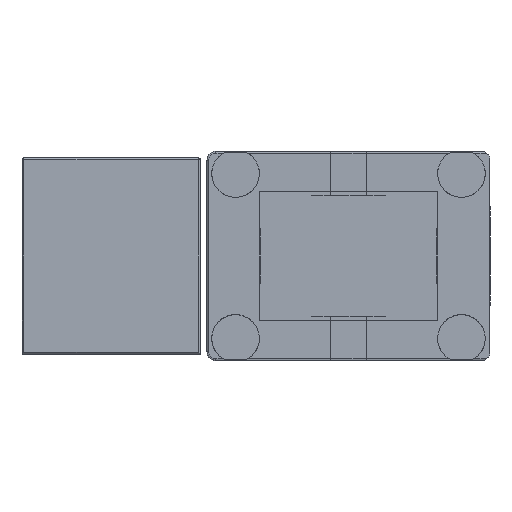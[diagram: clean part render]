
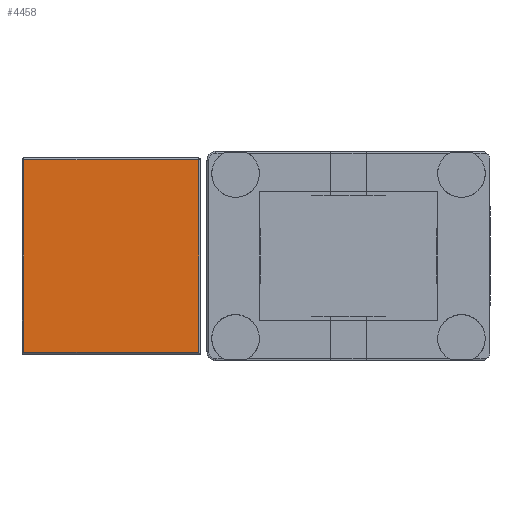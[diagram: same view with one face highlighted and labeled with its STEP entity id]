
A CAD part, left-side view. The second image highlights one B-rep face of the part: STEP entity #4458.
In plain terms, the highlighted planar face has unit normal (-1, 0, 0).
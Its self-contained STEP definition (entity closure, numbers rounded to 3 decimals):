
#81 = PLANE ( 'NONE',  #1834 ) ;
#492 = CARTESIAN_POINT ( 'NONE',  ( -38., 51.75, 10.8 ) ) ;
#542 = EDGE_CURVE ( 'NONE', #1361, #2272, #4691, .T. ) ;
#543 = LINE ( 'NONE', #492, #1575 ) ;
#1026 = EDGE_CURVE ( 'NONE', #2272, #6187, #2978, .T. ) ;
#1117 = EDGE_LOOP ( 'NONE', ( #1609, #8887, #3528, #6126 ) ) ;
#1361 = VERTEX_POINT ( 'NONE', #6813 ) ;
#1494 = CARTESIAN_POINT ( 'NONE',  ( -38., 49.75, -10. ) ) ;
#1575 = VECTOR ( 'NONE', #2622, 1000. ) ;
#1609 = ORIENTED_EDGE ( 'NONE', *, *, #542, .T. ) ;
#1834 = AXIS2_PLACEMENT_3D ( 'NONE', #1494, #2190, #5133 ) ;
#2190 = DIRECTION ( 'NONE',  ( -1., 0., 0. ) ) ;
#2272 = VERTEX_POINT ( 'NONE', #4283 ) ;
#2622 = DIRECTION ( 'NONE',  ( 0., 1., 0. ) ) ;
#2651 = CARTESIAN_POINT ( 'NONE',  ( -38., 31.75, -10.8 ) ) ;
#2978 = LINE ( 'NONE', #2651, #4103 ) ;
#3148 = EDGE_CURVE ( 'NONE', #9319, #1361, #543, .T. ) ;
#3158 = CARTESIAN_POINT ( 'NONE',  ( -38., 31.95, -10.8 ) ) ;
#3325 = LINE ( 'NONE', #7547, #6808 ) ;
#3528 = ORIENTED_EDGE ( 'NONE', *, *, #4801, .T. ) ;
#4099 = DIRECTION ( 'NONE',  ( 0., -1., 0. ) ) ;
#4103 = VECTOR ( 'NONE', #4099, 1000. ) ;
#4283 = CARTESIAN_POINT ( 'NONE',  ( -38., 51.55, -10.8 ) ) ;
#4343 = CARTESIAN_POINT ( 'NONE',  ( -38., 31.95, 10.8 ) ) ;
#4458 = ADVANCED_FACE ( 'NONE', ( #5584 ), #81, .T. ) ;
#4610 = DIRECTION ( 'NONE',  ( 0., 0., 1. ) ) ;
#4691 = LINE ( 'NONE', #8279, #6922 ) ;
#4801 = EDGE_CURVE ( 'NONE', #6187, #9319, #3325, .T. ) ;
#5133 = DIRECTION ( 'NONE',  ( 0., 0., 1. ) ) ;
#5584 = FACE_OUTER_BOUND ( 'NONE', #1117, .T. ) ;
#6126 = ORIENTED_EDGE ( 'NONE', *, *, #3148, .T. ) ;
#6187 = VERTEX_POINT ( 'NONE', #3158 ) ;
#6808 = VECTOR ( 'NONE', #4610, 1000. ) ;
#6813 = CARTESIAN_POINT ( 'NONE',  ( -38., 51.55, 10.8 ) ) ;
#6922 = VECTOR ( 'NONE', #9007, 1000. ) ;
#7547 = CARTESIAN_POINT ( 'NONE',  ( -38., 31.95, -10. ) ) ;
#8279 = CARTESIAN_POINT ( 'NONE',  ( -38., 51.55, -10. ) ) ;
#8887 = ORIENTED_EDGE ( 'NONE', *, *, #1026, .T. ) ;
#9007 = DIRECTION ( 'NONE',  ( 0., 0., -1. ) ) ;
#9319 = VERTEX_POINT ( 'NONE', #4343 ) ;
